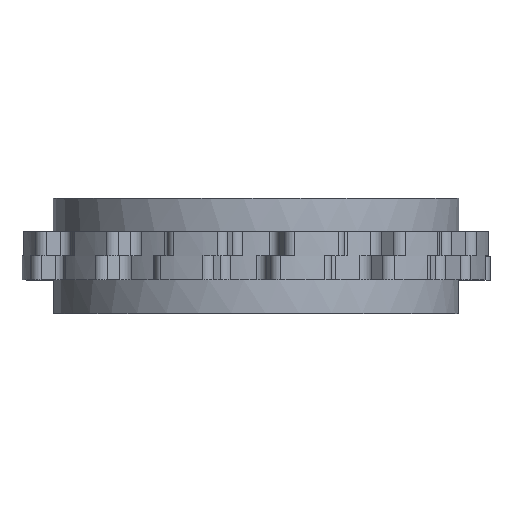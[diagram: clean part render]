
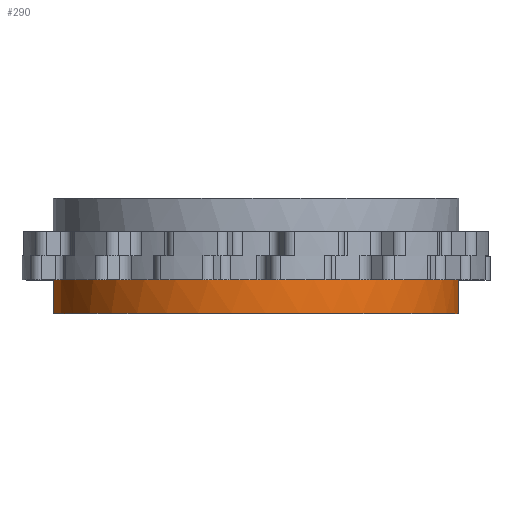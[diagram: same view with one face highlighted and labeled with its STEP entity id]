
A CAD part, top view. The second image highlights one B-rep face of the part: STEP entity #290.
In plain terms, the highlighted cylindrical face has radius 42.25 mm (diameter 84.5 mm), a partial arc.
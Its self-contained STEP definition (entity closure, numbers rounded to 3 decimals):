
#73=CARTESIAN_POINT('Vertex',(-42.171,-12.,-2.579)) ;
#75=CARTESIAN_POINT('Vertex',(42.171,-12.,2.579)) ;
#79=CARTESIAN_POINT('Control Point',(-42.171,-12.,-2.579)) ;
#80=CARTESIAN_POINT('Control Point',(-42.576,-12.,4.045)) ;
#81=CARTESIAN_POINT('Control Point',(-41.681,-12.,10.749)) ;
#82=CARTESIAN_POINT('Control Point',(-39.463,-12.,17.191)) ;
#83=CARTESIAN_POINT('Control Point',(-32.619,-12.,28.859)) ;
#84=CARTESIAN_POINT('Control Point',(-21.872,-12.,37.073)) ;
#85=CARTESIAN_POINT('Control Point',(-15.748,-12.,40.06)) ;
#86=CARTESIAN_POINT('Control Point',(-2.659,-12.,43.472)) ;
#87=CARTESIAN_POINT('Control Point',(10.749,-12.,41.681)) ;
#88=CARTESIAN_POINT('Control Point',(17.191,-12.,39.463)) ;
#89=CARTESIAN_POINT('Control Point',(28.859,-12.,32.619)) ;
#90=CARTESIAN_POINT('Control Point',(37.073,-12.,21.872)) ;
#91=CARTESIAN_POINT('Control Point',(40.06,-12.,15.748)) ;
#92=CARTESIAN_POINT('Control Point',(41.766,-12.,9.204)) ;
#93=CARTESIAN_POINT('Control Point',(42.171,-12.,2.579)) ;
#248=CARTESIAN_POINT('Axis2P3D Location',(0.,-7.,0.)) ;
#253=CARTESIAN_POINT('Line Origine',(-42.171,-7.,-2.579)) ;
#257=CARTESIAN_POINT('Vertex',(-42.171,-5.,-2.579)) ;
#264=CARTESIAN_POINT('Vertex',(42.171,-5.,2.579)) ;
#267=CARTESIAN_POINT('Line Origine',(42.171,-7.,2.579)) ;
#279=CARTESIAN_POINT('Axis2P3D Location',(0.,-5.,0.)) ;
#249=DIRECTION('Axis2P3D Direction',(0.,1.,0.)) ;
#250=DIRECTION('Axis2P3D XDirection',(-0.998,0.,-0.061)) ;
#254=DIRECTION('Vector Direction',(0.,1.,0.)) ;
#268=DIRECTION('Vector Direction',(0.,1.,0.)) ;
#280=DIRECTION('Axis2P3D Direction',(0.,1.,0.)) ;
#251=AXIS2_PLACEMENT_3D('Cylinder Axis2P3D',#248,#249,#250) ;
#281=AXIS2_PLACEMENT_3D('Circle Axis2P3D',#279,#280,$) ;
#285=ORIENTED_EDGE('',*,*,#271,.F.) ;
#286=ORIENTED_EDGE('',*,*,#283,.F.) ;
#287=ORIENTED_EDGE('',*,*,#259,.T.) ;
#288=ORIENTED_EDGE('',*,*,#94,.F.) ;
#255=VECTOR('Line Direction',#254,1.) ;
#269=VECTOR('Line Direction',#268,1.) ;
#290=ADVANCED_FACE('Body.2',(#289),#252,.T.) ;
#78=B_SPLINE_CURVE_WITH_KNOTS('',5,(#79,#80,#81,#82,#83,#84,#85,#86,#87,#88,#89,#90,#91,#92,#93),.UNSPECIFIED.,.F.,.U.,(6,3,3,3,6),(0.,33.183,66.366,99.549,132.732),.UNSPECIFIED.) ;
#282=CIRCLE('generated circle',#281,42.25) ;
#252=CYLINDRICAL_SURFACE('generated cylinder',#251,42.25) ;
#94=EDGE_CURVE('',#76,#74,#78,.F.) ;
#259=EDGE_CURVE('',#258,#74,#256,.F.) ;
#271=EDGE_CURVE('',#265,#76,#270,.F.) ;
#283=EDGE_CURVE('',#258,#265,#282,.T.) ;
#284=EDGE_LOOP('',(#285,#286,#287,#288)) ;
#289=FACE_OUTER_BOUND('',#284,.T.) ;
#256=LINE('Line',#253,#255) ;
#270=LINE('Line',#267,#269) ;
#74=VERTEX_POINT('',#73) ;
#76=VERTEX_POINT('',#75) ;
#258=VERTEX_POINT('',#257) ;
#265=VERTEX_POINT('',#264) ;
